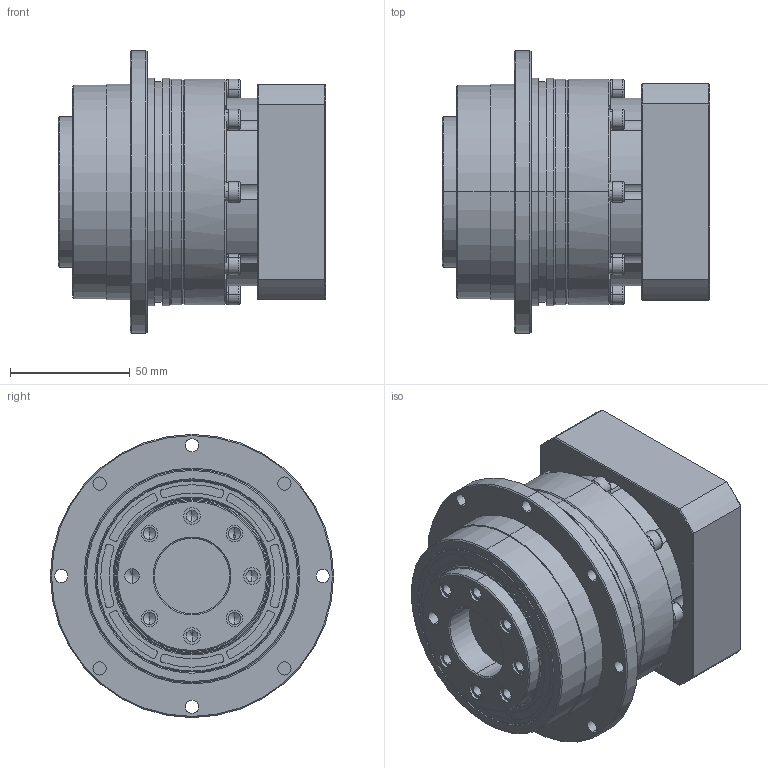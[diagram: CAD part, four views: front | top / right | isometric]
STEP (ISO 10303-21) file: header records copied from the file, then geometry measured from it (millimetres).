
FILE_DESCRIPTION (( 'STEP AP214' ), '1' );
FILE_NAME ('VRT-090-L1-P1 19-70-90-M5.STEP', '2023-08-16T01:46:44', ( '微软用户' ), ( '微软中国' ), 'SwSTEP 2.0', 'SolidWorks 2018', '' );
FILE_SCHEMA (( 'AUTOMOTIVE_DESIGN' ));
Length unit declared in the file: millimetre
Products named in the file (14): 笢潔楊擘AKD90; VRT-090一级整体太阳轮D19外形图; VRT-090-L1-P1 19-70-90-M5; hex socket set screws with flat point gb_GB_FASTENER_SCREWS_HSFP M12X12-N; 萇儂楊擘VRT-090 D70-M5-90F90H28.5; 一级齿圈VRT-090外形图; hexagon socket head cap screws gb_GB_FASTENER_SCREWS_HSHCS M5X30-N; hexagon socket head cap screws gb_GB_FASTENER_SCREWS_HSHCS M6X20-N; 一级输出轴VRT-090外形图; spring lock washers--normal type gb_GB_FASTENER_WASHER_SW 5; 標杶VRT-090 D19; 珨撰幗渀粣創VRT-090 8x11.146x16.4; 蚐猾65x80x7; hexagon socket head cap screws gb_GB_FASTENER_SCREWS_HSHCS M5X20-N
Assembly tree (38 placements, depth 2):
  VRT-090-L1-P1 19-70-90-M5
    一级齿圈VRT-090外形图
    一级输出轴VRT-090外形图
    笢潔楊擘AKD90
    VRT-090一级整体太阳轮D19外形图
    珨撰幗渀粣創VRT-090 8x11.146x16.4
    標杶VRT-090 D19
    萇儂楊擘VRT-090 D70-M5-90F90H28.5
    蚐猾65x80x7
    spring lock washers--normal type gb_GB_FASTENER_WASHER_SW 5  x14
    hexagon socket head cap screws gb_GB_FASTENER_SCREWS_HSHCS M5X30-N  x8
    hexagon socket head cap screws gb_GB_FASTENER_SCREWS_HSHCS M6X20-N
    hexagon socket head cap screws gb_GB_FASTENER_SCREWS_HSHCS M5X20-N  x6
    hex socket set screws with flat point gb_GB_FASTENER_SCREWS_HSFP M12X12-N
Bounding box: 111.5 x 118 x 118 mm (x, y, z)
Volume: 563555.8 mm3; surface area: 149834.4 mm2
Topology: 38 solids, 38 shells, 1155 faces, 2806 edges, 1732 vertices
Faces by surface type: plane 453, cylinder 443, cone 217, bspline 42
Entity records: 30995 total; most frequent: CARTESIAN_POINT 4659, DIRECTION 4016, ORIENTED_EDGE 3516, EDGE_CURVE 1758, AXIS2_PLACEMENT_3D 1635, VERTEX_POINT 1128, CIRCLE 887, EDGE_LOOP 852
